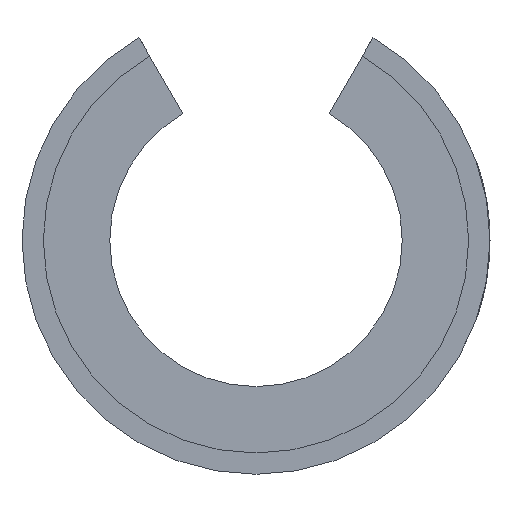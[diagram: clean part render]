
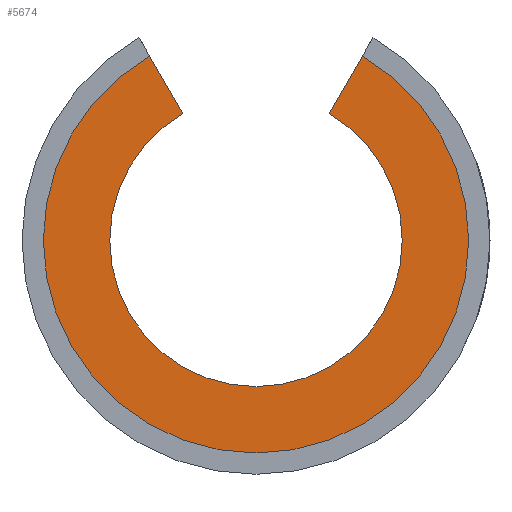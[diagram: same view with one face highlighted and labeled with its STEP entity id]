
A CAD part, left-side view. The second image highlights one B-rep face of the part: STEP entity #5674.
In plain terms, the highlighted planar face has unit normal (-1, 0, 0).
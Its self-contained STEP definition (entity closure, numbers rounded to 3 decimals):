
#126=PLANE('',#6116);
#379=CIRCLE('',#6092,12.5);
#391=CIRCLE('',#6117,18.177);
#594=LINE('',#8993,#1083);
#595=LINE('',#8997,#1084);
#1083=VECTOR('',#6756,1000.);
#1084=VECTOR('',#6759,1000.);
#1761=ORIENTED_EDGE('',*,*,#3472,.T.);
#1762=ORIENTED_EDGE('',*,*,#3473,.F.);
#1763=ORIENTED_EDGE('',*,*,#3474,.T.);
#1764=ORIENTED_EDGE('',*,*,#3435,.T.);
#3435=EDGE_CURVE('',#4298,#4297,#379,.F.);
#3472=EDGE_CURVE('',#4297,#4321,#594,.T.);
#3473=EDGE_CURVE('',#4322,#4321,#391,.T.);
#3474=EDGE_CURVE('',#4322,#4298,#595,.T.);
#4297=VERTEX_POINT('',#8919);
#4298=VERTEX_POINT('',#8921);
#4321=VERTEX_POINT('',#8994);
#4322=VERTEX_POINT('',#8996);
#4870=EDGE_LOOP('',(#1761,#1762,#1763,#1764));
#5263=FACE_BOUND('',#4870,.T.);
#5674=ADVANCED_FACE('',(#5263),#126,.T.);
#6092=AXIS2_PLACEMENT_3D('',#8920,#6681,#6682);
#6116=AXIS2_PLACEMENT_3D('',#8992,#6754,#6755);
#6117=AXIS2_PLACEMENT_3D('',#8995,#6757,#6758);
#6681=DIRECTION('',(-1.,0.,0.));
#6682=DIRECTION('',(0.,0.,1.));
#6754=DIRECTION('',(-1.,0.,0.));
#6755=DIRECTION('',(0.,0.,-1.));
#6756=DIRECTION('',(0.,0.5,0.866));
#6757=DIRECTION('',(1.,0.,0.));
#6758=DIRECTION('',(0.,0.,-1.));
#6759=DIRECTION('',(0.,0.5,-0.866));
#8919=CARTESIAN_POINT('',(-27.,6.25,10.825));
#8920=CARTESIAN_POINT('',(-27.,0.,0.));
#8921=CARTESIAN_POINT('',(-27.,-6.25,10.825));
#8992=CARTESIAN_POINT('',(-27.,0.,0.));
#8993=CARTESIAN_POINT('',(-27.,6.25,10.825));
#8994=CARTESIAN_POINT('',(-27.,9.089,15.742));
#8995=CARTESIAN_POINT('',(-27.,0.,0.));
#8996=CARTESIAN_POINT('',(-27.,-9.089,15.742));
#8997=CARTESIAN_POINT('',(-27.,-6.25,10.825));
